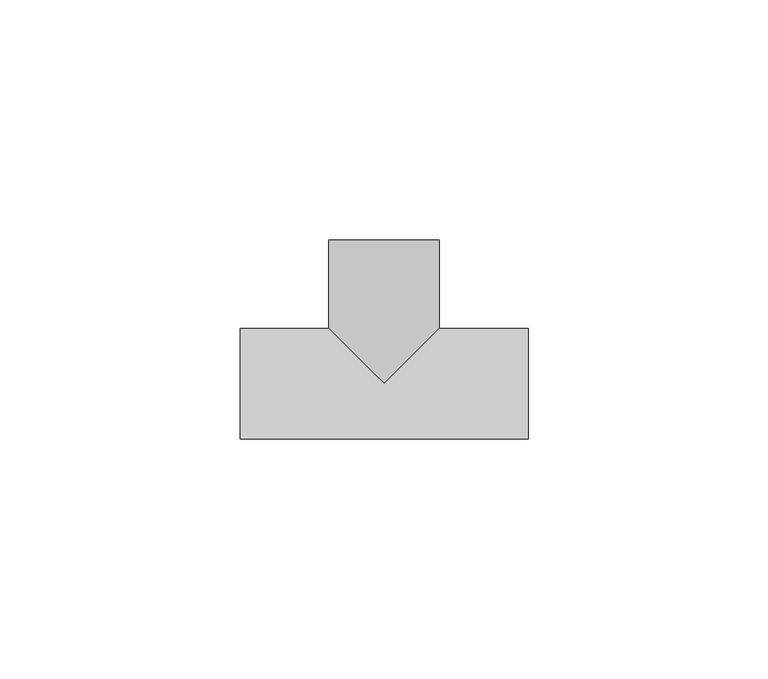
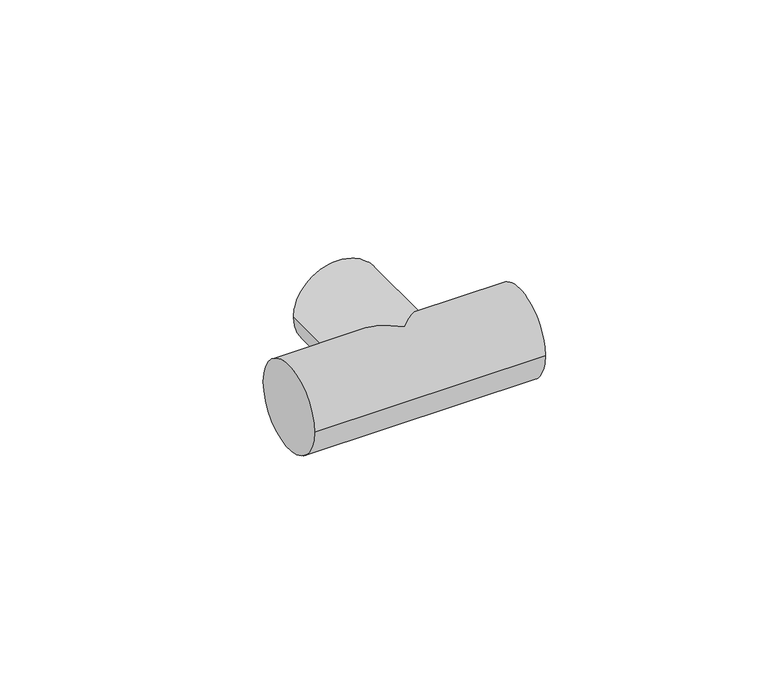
"""IFC4 building model written with IfcOpenShell, lengths in millimetres: cable carrier fitting geometry, ADSK_Тройник : ПВХ."""

from ifc_helpers import new_model, si_unit, frame, origin, place, context, project, spatial, circle_curve, ellipse_curve, source, transform, mapped, element, save
from ifc_brep_helpers import plane_surface, cylinder_surface, advanced_brep


def cable_carrier_fitting_272863db(model_context):
    return source(origin(), model_context, "Body", "AdvancedBrep", [
        advanced_brep(
        [(30.0, 11.5, 0.0), (30.0, -11.5, 0.0), (-30.0, 11.5, 0.0), (-30.0, -11.5, 0.0), (-11.5, 11.5, 0.0), (0.0, 0.0, -11.5), (11.5, 11.5, 0.0), (0.0, 0.0, 11.5), (11.5, 30.0, 0.0), (-11.5, 30.0, 0.0)],
        [
            (0, 1, circle_curve(frame((30.0, 0.0, 0.0), z_axis=(1.0, 0.0, 0.0), x_axis=(0.0, -1.0, 0.0)), 11.5)),
            (1, 0, circle_curve(frame((30.0, 0.0, 0.0), z_axis=(1.0, 0.0, 0.0), x_axis=(0.0, -1.0, 0.0)), 11.5)),
            (2, 3, circle_curve(frame((-30.0, 0.0, 0.0), z_axis=(-1.0, 0.0, 0.0), x_axis=(0.0, -1.0, 0.0)), 11.5)),
            (3, 2, circle_curve(frame((-30.0, 0.0, 0.0), z_axis=(-1.0, 0.0, 0.0), x_axis=(0.0, -1.0, 0.0)), 11.5)),
            (1, 3),
            (2, 4),
            (4, 5, ellipse_curve(frame((0.0, 0.0, 0.0), z_axis=(-0.7071067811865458, -0.7071067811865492, 0.0), x_axis=(0.7071067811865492, -0.7071067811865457, 0.0)), 16.263456, 11.5)),
            (5, 6, ellipse_curve(frame((0.0, 0.0, 0.0), z_axis=(0.7071067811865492, -0.7071067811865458, 0.0), x_axis=(0.7071067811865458, 0.7071067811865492, 0.0)), 16.263456, 11.5)),
            (6, 0),
            (6, 7, ellipse_curve(frame((0.0, 0.0, 0.0), z_axis=(0.7071067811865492, -0.7071067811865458, 0.0), x_axis=(0.7071067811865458, 0.7071067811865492, 0.0)), 16.263456, 11.5)),
            (7, 4, ellipse_curve(frame((0.0, 0.0, 0.0), z_axis=(-0.7071067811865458, -0.7071067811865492, 0.0), x_axis=(0.7071067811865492, -0.7071067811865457, 0.0)), 16.263456, 11.5)),
            (8, 9, circle_curve(frame((0.0, 30.0, 0.0), z_axis=(0.0, 1.0, 0.0), x_axis=(-1.0, 0.0, 0.0)), 11.5)),
            (9, 8, circle_curve(frame((0.0, 30.0, 0.0), z_axis=(0.0, 1.0, 0.0), x_axis=(-1.0, 0.0, 0.0)), 11.5)),
            (8, 6),
            (4, 9),
        ],
        [
            plane_surface(frame((30.0, -11.5, 0.0), z_axis=(1.0, 0.0, 0.0), x_axis=(0.0, 0.0, 1.0))),
            plane_surface(frame((-30.0, -11.5, 0.0), z_axis=(-1.0, 0.0, 0.0), x_axis=(0.0, 0.0, -1.0))),
            cylinder_surface(frame((-30.0, 0.0, 0.0), z_axis=(1.0, 0.0, 0.0), x_axis=(0.0, -1.0, 0.0)), 11.5),
            plane_surface(frame((-11.5, 30.0, 0.0), z_axis=(0.0, 1.0, 0.0), x_axis=(0.0, 0.0, -1.0))),
            cylinder_surface(frame((0.0, 30.0, 0.0), z_axis=(0.0, -1.0, 0.0), x_axis=(-1.0, 0.0, 0.0)), 11.5),
        ],
        [
            (0, [[1, 2]]),
            (1, [[3, 4]]),
            (2, [[5, -3, 6, 7, 8, 9, -2]]),
            (2, [[-9, 10, 11, -6, -4, -5, -1]]),
            (3, [[12, 13]]),
            (4, [[14, -8, -7, 15, -12]]),
            (4, [[-15, -11, -10, -14, -13]]),
        ],
    ),
    ])


if __name__ == "__main__":
    model = new_model("IFC4")
    model_context = context("Model", 3, world=origin())
    ifc_project = project(units=[si_unit("LENGTHUNIT", "METRE", prefix="MILLI")], contexts=[model_context])
    site = spatial("IfcSite", under=ifc_project)
    building = spatial("IfcBuilding", under=site)
    placement = place(None, origin())
    cable_carrier_fitting_shape = cable_carrier_fitting_272863db(model_context)
    element("IfcCableCarrierFitting", 1, ObjectType="ADSK_Тройник : ПВХ", at=placement, inside=building, context=model_context, shape_type="MappedRepresentation", body=[
        mapped(cable_carrier_fitting_shape, transform((0.0, 0.0, 0.0), x_axis=(1.0, 0.0, 0.0), y_axis=(0.0, 1.0, 0.0), z_axis=(0.0, 0.0, 1.0))),
    ])
    save(model, "model.ifc")
